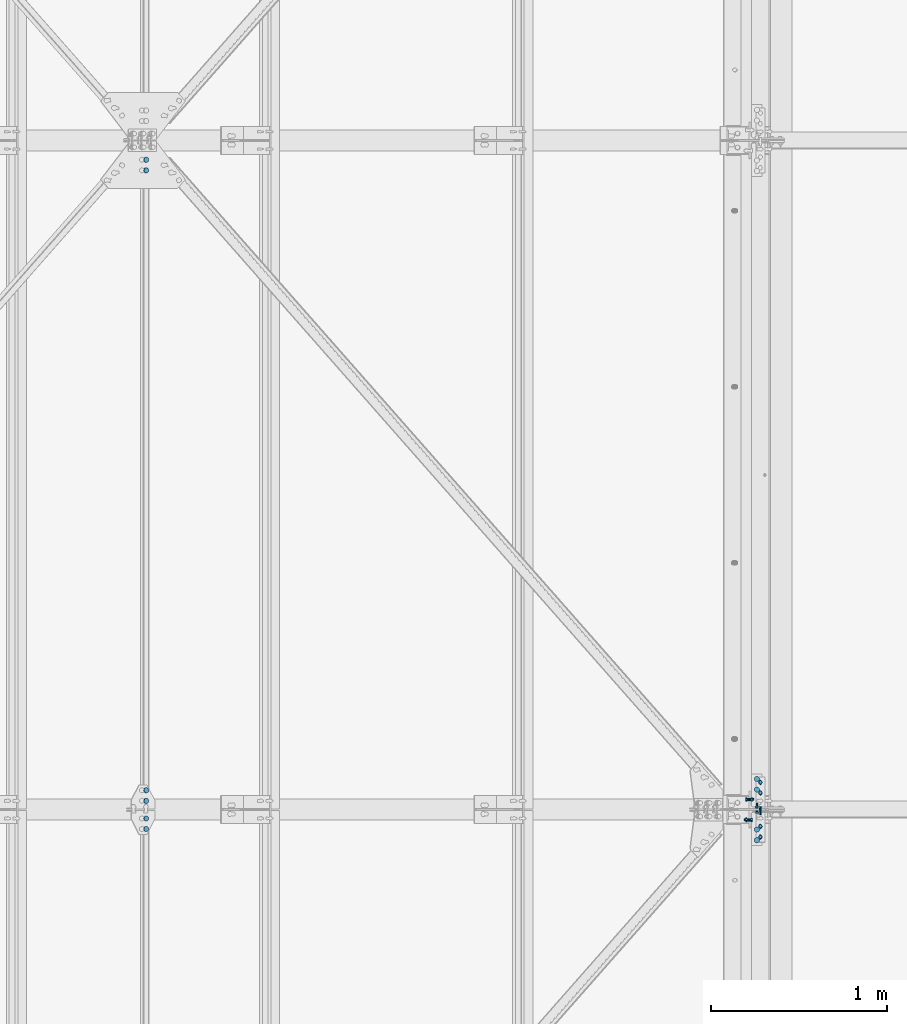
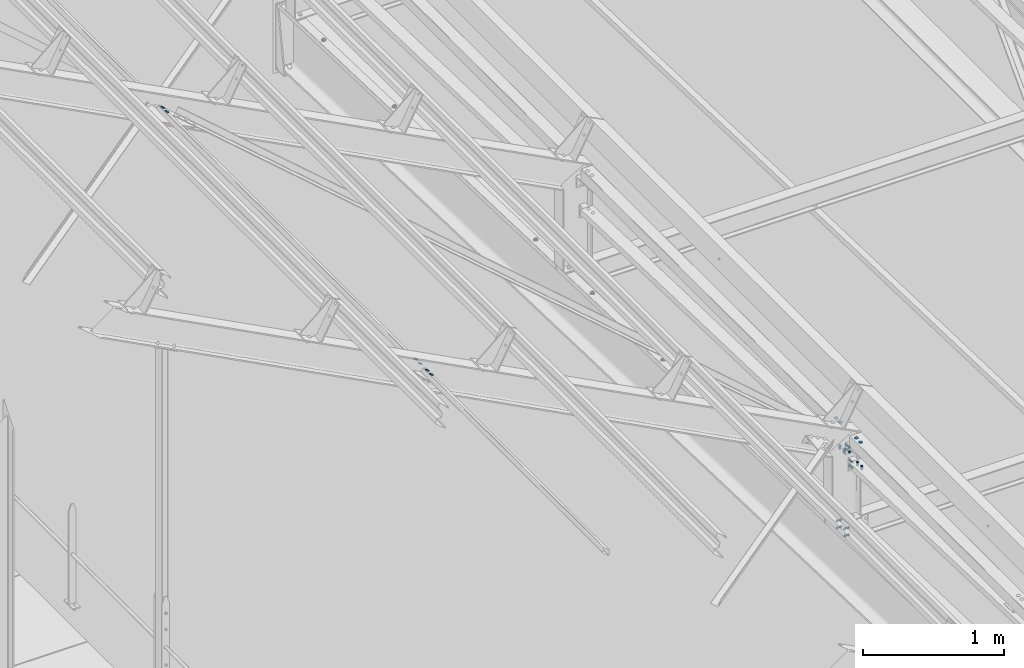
# One storey, part 278 of 362: 11 mechanical fasteners.
"""IFC2X3 building model written with IfcOpenShell, lengths in millimetres."""

from ifc_helpers import new_model, si_unit, frame, frame_2d, origin_with_axes, origin_2d_with_axis, place, context, subcontext, project, spatial, polyline, circle_curve, parameter, trimmed, segment, composite_curve, circle, outline, extrude, source, transform, mapped, material, type_object, element, save


model = new_model("IFC2X3")

# Units and contexts
model_context = context("Model", 3, precision=1e-05, world=origin_with_axes())
body_context = subcontext(model_context, "Body", "Model", "MODEL_VIEW")
ifc_project = project(units=[si_unit("LENGTHUNIT", "METRE", prefix="MILLI"), si_unit("AREAUNIT", "SQUARE_METRE"), si_unit("VOLUMEUNIT", "CUBIC_METRE"), si_unit("MASSUNIT", "GRAM", prefix="KILO"), si_unit("TIMEUNIT", "SECOND"), si_unit("PLANEANGLEUNIT", "RADIAN"), si_unit("SOLIDANGLEUNIT", "STERADIAN"), si_unit("THERMODYNAMICTEMPERATUREUNIT", "DEGREE_CELSIUS"), si_unit("LUMINOUSINTENSITYUNIT", "LUMEN")], contexts=[model_context])

# Site, building, storey
site_placement = place(None, origin_with_axes())
site = spatial("IfcSite", under=ifc_project, at=site_placement, Name="Undefined", CompositionType="ELEMENT")
building_placement = place(site_placement, origin_with_axes())
building = spatial("IfcBuilding", under=site, at=building_placement, Name="Undefined", CompositionType="ELEMENT")
storey_placement = place(building_placement, origin_with_axes())
storey = spatial("IfcBuildingStorey", under=building, at=storey_placement, Name="Undefined", CompositionType="ELEMENT", Elevation=0.0)

# Mechanical fasteners
ifc_material_1 = material(Name="6.8")
mechanical_fastener_type = type_object("IfcMechanicalFastenerType", Name="Bolt assembly")
shared_shape_1 = source(origin_with_axes(), body_context, "Body", "SweptSolid", [
    extrude(circle(Radius=15.0, at=origin_2d_with_axis()), frame((0.0, 0.0, 0.0), z_axis=(0.0, 1.0, 0.0), x_axis=(1.0, 0.0, 0.0)), (0.0, 0.0, 1.0), 4.1),
])
for number, where, z_axis, x_axis, name in (
    (1, (16133.5387435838, 11290.0011719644, 10309.713424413), (0.886082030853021, 2.26635428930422e-05, -0.463528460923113), (2.01259999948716e-05, -0.999999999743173, -1.04209999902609e-05), "Bolt assembly"),
    (2, (19599.9999999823, 7773.5, 8550.0), (1.0, 0.0, 0.0), (0.0, -1.0, 0.0), "Bolt assembly"),
    (3, (19599.9999999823, 7426.5, 8550.0), (-1.0, 0.0, 0.0), (0.0, 1.0, 0.0), "Bolt assembly"),
):
    element("IfcMechanicalFastener", number, at=place(storey_placement, frame(where, z_axis=z_axis, x_axis=x_axis)), inside=storey, type_object=mechanical_fastener_type, material=ifc_material_1, Name=name, NominalDiameter=30.0, NominalLength=4.0, context=body_context, shape_type="MappedRepresentation", body=[
        mapped(shared_shape_1, transform((0.0, 0.0, 0.0))),
        mapped(shared_shape_1, transform((60.0, 0.0, 0.0))),
    ])
ifc_material_2 = material(Name="8.8-SB-ZINGUE")
shared_shape_2 = source(origin_with_axes(), body_context, "Body", "SweptSolid", [
    extrude(circle(Radius=7.0, at=origin_2d_with_axis()), frame((0.0, -3.09999932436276, 0.0), z_axis=(0.0, 1.0, 0.0), x_axis=(1.0, 0.0, 0.0)), (0.0, 0.0, 1.0), 6.2),
    extrude(circle(Radius=7.0, at=origin_2d_with_axis()), frame((0.0, -9.40000000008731, 0.0), z_axis=(0.0, 1.0, 0.0), x_axis=(1.0, 0.0, 0.0)), (0.0, 0.0, 1.0), 6.0),
    extrude(circle(Radius=7.0, at=origin_2d_with_axis()), frame((0.0, 3.40000111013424, 0.0), z_axis=(0.0, 1.0, 0.0), x_axis=(1.0, 0.0, 0.0)), (0.0, 0.0, 1.0), 6.1),
    extrude(outline(polyline([(10.39230484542, 0.0), (5.19615242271, 9.00000000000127), (-5.19615242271, 9.00000000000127), (-10.39230484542, 0.0), (-5.19615242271, -9.00000000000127), (5.19615242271, -9.00000000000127), (10.39230484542, 0.0)])), frame((0.0, -17.4200000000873, 0.0), z_axis=(0.0, 1.0, 0.0), x_axis=(1.0, 0.0, 0.0)), (0.0, 0.0, 1.0), 7.92),
    extrude(circle(Radius=6.0, at=origin_2d_with_axis()), frame((0.0, -9.50000000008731, 0.0), z_axis=(0.0, 1.0, 0.0), x_axis=(1.0, 0.0, 0.0)), (0.0, 0.0, 1.0), 40.0),
    extrude(outline(polyline([(11.5008173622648, 0.0), (5.7504086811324, 9.96000000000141), (-5.7504086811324, 9.96000000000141), (-11.5008173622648, 0.0), (-5.7504086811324, -9.96000000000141), (5.7504086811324, -9.96000000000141), (11.5008173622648, 0.0)])), frame((0.0, 9.50000815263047, 0.0), z_axis=(0.0, 1.0, 0.0), x_axis=(1.0, 0.0, 0.0)), (0.0, 0.0, 1.0), 7.92),
])
mechanical_fastener_1_placement = place(storey_placement, frame((19620.0, 7600.0, 8227.43274813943), z_axis=(1.0, 0.0, 0.0), x_axis=(0.0, 0.0, 1.0)))
element("IfcMechanicalFastener", 4, at=mechanical_fastener_1_placement, inside=storey, type_object=mechanical_fastener_type, material=ifc_material_2, Name="Bolt assembly", NominalDiameter=12.0, NominalLength=40.0, context=body_context, shape_type="MappedRepresentation", body=[
    mapped(shared_shape_2, transform((0.0, 0.0, 0.0))),
    mapped(shared_shape_2, transform((49.9999999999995, 0.0, -3.63797880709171e-12))),
])
shared_shape_3 = source(origin_with_axes(), body_context, "Body", "SweptSolid", [
    extrude(circle(Radius=7.0, at=origin_2d_with_axis()), frame((0.0, -3.89999843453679, 0.0), z_axis=(0.0, 1.0, 0.0), x_axis=(1.0, 0.0, 0.0)), (0.0, 0.0, 1.0), 4.0),
    extrude(outline(composite_curve([segment(polyline([(-7.0, 7.0), (7.0, 7.0)]), True, "CONTINUOUS"), segment(trimmed(circle_curve(frame_2d((7.0, 0.0), x_axis=(0.0, 1.0)), 7.0), [parameter(0.0)], [parameter(3.14159265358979)], False, "PARAMETER"), True, "CONTINUOUS"), segment(polyline([(7.0, -7.0), (-7.0, -7.0)]), True, "CONTINUOUS"), segment(trimmed(circle_curve(frame_2d((-7.0, 0.0), x_axis=(0.0, -1.0)), 7.0), [parameter(0.0)], [parameter(3.14159265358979)], False, "PARAMETER"), True, "DISCONTINUOUS")], self_intersect=False)), frame((0.0, -0.100011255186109, 0.0), z_axis=(0.0, 1.0, 0.0), x_axis=(1.0, 0.0, 0.0)), (0.0, 0.0, 1.0), 6.1),
    extrude(outline(polyline([(10.39230484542, 0.0), (5.19615242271, 9.00000000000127), (-5.19615242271, 9.00000000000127), (-10.39230484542, 0.0), (-5.19615242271, -9.00000000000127), (5.19615242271, -9.00000000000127), (10.39230484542, 0.0)])), frame((0.0, -11.9199984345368, 0.0), z_axis=(0.0, 1.0, 0.0), x_axis=(1.0, 0.0, 0.0)), (0.0, 0.0, 1.0), 7.92),
    extrude(circle(Radius=6.0, at=origin_2d_with_axis()), frame((0.0, -3.99999923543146, 0.0), z_axis=(0.0, 1.0, 0.0), x_axis=(1.0, 0.0, 0.0)), (0.0, 0.0, 1.0), 30.0),
    extrude(circle(Radius=10.8, at=origin_2d_with_axis()), frame((0.0, 6.0, 0.0), z_axis=(0.0, 1.0, 0.0), x_axis=(1.0, 0.0, 0.0)), (0.0, 0.0, 1.0), 3.96),
    extrude(outline(polyline([(11.5008173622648, 0.0), (5.7504086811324, 9.96000000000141), (-5.7504086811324, 9.96000000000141), (-11.5008173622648, 0.0), (-5.7504086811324, -9.96000000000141), (5.7504086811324, -9.96000000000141), (11.5008173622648, 0.0)])), frame((0.0, 9.9600084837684, 0.0), z_axis=(0.0, 1.0, 0.0), x_axis=(1.0, 0.0, 0.0)), (0.0, 0.0, 1.0), 7.92),
])
mechanical_fastener_2_placement = place(storey_placement, frame((19619.9999999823, 7445.0444201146, 8317.30299256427), z_axis=(-1.0, 0.0, 0.0), x_axis=(0.0, 0.99950644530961, -0.0314144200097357)))
element("IfcMechanicalFastener", 5, at=mechanical_fastener_2_placement, inside=storey, type_object=mechanical_fastener_type, material=ifc_material_2, Name="Bolt assembly", NominalDiameter=12.0, NominalLength=30.0, context=body_context, shape_type="MappedRepresentation", body=[
    mapped(shared_shape_3, transform((0.0, 0.0, 0.0))),
    mapped(shared_shape_3, transform((60.0, 0.0, 0.0))),
])
shared_shape_4 = source(origin_with_axes(), body_context, "Body", "SweptSolid", [
    extrude(circle(Radius=7.0, at=origin_2d_with_axis()), frame((0.0, -3.89999843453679, 0.0), z_axis=(0.0, 1.0, 0.0), x_axis=(1.0, 0.0, 0.0)), (0.0, 0.0, 1.0), 4.0),
    extrude(outline(composite_curve([segment(polyline([(-7.0, 7.0), (7.0, 7.0)]), True, "CONTINUOUS"), segment(trimmed(circle_curve(frame_2d((7.0, 0.0), x_axis=(0.0, 1.0)), 7.0), [parameter(0.0)], [parameter(3.14159265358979)], False, "PARAMETER"), True, "CONTINUOUS"), segment(polyline([(7.0, -7.0), (-7.0, -7.0)]), True, "CONTINUOUS"), segment(trimmed(circle_curve(frame_2d((-7.0, 0.0), x_axis=(0.0, -1.0)), 7.0), [parameter(0.0)], [parameter(3.14159265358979)], False, "PARAMETER"), True, "DISCONTINUOUS")], self_intersect=False)), frame((0.0, -0.100011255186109, 0.0), z_axis=(0.0, 1.0, 0.0), x_axis=(1.0, 0.0, 0.0)), (0.0, 0.0, 1.0), 6.1),
    extrude(outline(polyline([(10.39230484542, 0.0), (5.19615242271, 9.00000000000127), (-5.19615242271, 9.00000000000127), (-10.39230484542, 0.0), (-5.19615242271, -9.00000000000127), (5.19615242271, -9.00000000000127), (10.39230484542, 0.0)])), frame((0.0, -11.9199984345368, 0.0), z_axis=(0.0, 1.0, 0.0), x_axis=(1.0, 0.0, 0.0)), (0.0, 0.0, 1.0), 7.92),
    extrude(circle(Radius=6.0, at=origin_2d_with_axis()), frame((0.0, -3.99999923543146, 0.0), z_axis=(0.0, 1.0, 0.0), x_axis=(1.0, 0.0, 0.0)), (0.0, 0.0, 1.0), 30.0),
    extrude(circle(Radius=10.8, at=origin_2d_with_axis()), frame((0.0, 6.0, 0.0), z_axis=(0.0, 1.0, 0.0), x_axis=(1.0, 0.0, 0.0)), (0.0, 0.0, 1.0), 3.96),
    extrude(outline(polyline([(11.5008173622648, 0.0), (5.7504086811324, 9.96000000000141), (-5.7504086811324, 9.96000000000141), (-11.5008173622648, 0.0), (-5.7504086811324, -9.96000000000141), (5.7504086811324, -9.96000000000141), (11.5008173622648, 0.0)])), frame((0.0, 9.9600084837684, 0.0), z_axis=(0.0, 1.0, 0.0), x_axis=(1.0, 0.0, 0.0)), (0.0, 0.0, 1.0), 7.92),
])
mechanical_fastener_3_placement = place(storey_placement, frame((19619.9999999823, 7754.95557192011, 8307.56250616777), z_axis=(1.0, 0.0, 0.0), x_axis=(0.0, -0.999506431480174, 0.0314148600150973)))
element("IfcMechanicalFastener", 6, at=mechanical_fastener_3_placement, inside=storey, type_object=mechanical_fastener_type, material=ifc_material_2, Name="Bolt assembly", NominalDiameter=12.0, NominalLength=30.0, context=body_context, shape_type="MappedRepresentation", body=[
    mapped(shared_shape_4, transform((0.0, 0.0, 0.0))),
    mapped(shared_shape_4, transform((60.0, 0.0, 0.0))),
])
shared_shape_5 = source(origin_with_axes(), body_context, "Body", "SweptSolid", [
    extrude(circle(Radius=15.0, at=origin_2d_with_axis()), frame((0.0, 6.26397177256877e-05, 0.0), z_axis=(0.0, 1.0, 0.0), x_axis=(1.0, 0.0, 0.0)), (0.0, 0.0, 1.0), 4.1),
])
for number, where, z_axis, x_axis, name in (
    (7, (16133.5411624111, 7650.00012193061, 10309.7122175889), (-0.886081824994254, 0.0, 0.463528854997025), (0.0, 1.0, 0.0), "Bolt assembly"),
    (8, (16133.5411639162, 7549.99998170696, 10309.7122175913), (0.886081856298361, 3.500000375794e-08, -0.463528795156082), (0.0, -1.0, 0.0), "Bolt assembly"),
):
    element("IfcMechanicalFastener", number, at=place(storey_placement, frame(where, z_axis=z_axis, x_axis=x_axis)), inside=storey, type_object=mechanical_fastener_type, material=ifc_material_1, Name=name, NominalDiameter=30.0, NominalLength=4.0, context=body_context, shape_type="MappedRepresentation", body=[
        mapped(shared_shape_5, transform((0.0, 0.0, 0.0))),
        mapped(shared_shape_5, transform((60.0, 0.0, 0.0))),
    ])
shared_shape_6 = source(origin_with_axes(), body_context, "Body", "SweptSolid", [
    extrude(circle(Radius=7.0, at=origin_2d_with_axis()), frame((0.0, -3.10006822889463, 0.0), z_axis=(0.0, 1.0, 0.0), x_axis=(1.0, 0.0, 0.0)), (0.0, 0.0, 1.0), 6.2),
    extrude(circle(Radius=7.0, at=origin_2d_with_axis()), frame((0.0, 3.3998951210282, 0.0), z_axis=(0.0, 1.0, 0.0), x_axis=(1.0, 0.0, 0.0)), (0.0, 0.0, 1.0), 10.1),
    extrude(circle(Radius=7.0, at=origin_2d_with_axis()), frame((0.0, -13.4001048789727, 0.0), z_axis=(0.0, 1.0, 0.0), x_axis=(1.0, 0.0, 0.0)), (0.0, 0.0, 1.0), 10.0),
    extrude(outline(polyline([(10.39230484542, 0.0), (5.19615242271, 9.00000000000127), (-5.19615242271, 9.00000000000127), (-10.39230484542, 0.0), (-5.19615242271, -9.00000000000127), (5.19615242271, -9.00000000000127), (10.39230484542, 0.0)])), frame((0.0, -21.4201048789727, 0.0), z_axis=(0.0, 1.0, 0.0), x_axis=(1.0, 0.0, 0.0)), (0.0, 0.0, 1.0), 7.92),
    extrude(circle(Radius=6.0, at=origin_2d_with_axis()), frame((0.0, -13.5000574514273, 0.0), z_axis=(0.0, 1.0, 0.0), x_axis=(1.0, 0.0, 0.0)), (0.0, 0.0, 1.0), 50.0),
    extrude(outline(polyline([(11.5008173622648, 0.0), (5.7504086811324, 9.96000000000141), (-5.7504086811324, 9.96000000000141), (-11.5008173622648, 0.0), (-5.7504086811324, -9.96000000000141), (5.7504086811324, -9.96000000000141), (11.5008173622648, 0.0)])), frame((0.0, 13.4998951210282, 0.0), z_axis=(0.0, 1.0, 0.0), x_axis=(1.0, 0.0, 0.0)), (0.0, 0.0, 1.0), 7.92),
])
mechanical_fastener_4_placement = place(storey_placement, frame((19599.9999999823, 7600.00010487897, 8370.0), z_axis=(-1.0, 0.0, 0.0), x_axis=(0.0, 0.0, 1.0)))
element("IfcMechanicalFastener", 9, at=mechanical_fastener_4_placement, inside=storey, type_object=mechanical_fastener_type, material=ifc_material_2, Name="Bolt assembly", NominalDiameter=12.0, NominalLength=50.0, context=body_context, shape_type="MappedRepresentation", body=[
    mapped(shared_shape_6, transform((0.0, 0.0, 0.0))),
    mapped(shared_shape_6, transform((40.0, 0.0, 0.0))),
])
shared_shape_7 = source(origin_with_axes(), body_context, "Body", "SweptSolid", [
    extrude(circle(Radius=7.0, at=origin_2d_with_axis()), frame((0.0, -5.45000018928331, 0.0), z_axis=(0.0, 1.0, 0.0), x_axis=(1.0, 0.0, 0.0)), (0.0, 0.0, 1.0), 11.1),
    extrude(circle(Radius=7.0, at=origin_2d_with_axis()), frame((0.0, 5.90002706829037, 0.0), z_axis=(0.0, 1.0, 0.0), x_axis=(1.0, 0.0, 0.0)), (0.0, 0.0, 1.0), 10.1),
    extrude(outline(polyline([(10.39230484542, 0.0), (5.19615242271, 9.00000000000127), (-5.19615242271, 9.00000000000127), (-10.39230484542, 0.0), (-5.19615242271, -9.00000000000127), (5.19615242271, -9.00000000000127), (10.39230484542, 0.0)])), frame((0.0, -13.4700001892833, 0.0), z_axis=(0.0, 1.0, 0.0), x_axis=(1.0, 0.0, 0.0)), (0.0, 0.0, 1.0), 7.92),
    extrude(circle(Radius=6.0, at=origin_2d_with_axis()), frame((0.0, -5.55000018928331, 0.0), z_axis=(0.0, 1.0, 0.0), x_axis=(1.0, 0.0, 0.0)), (0.0, 0.0, 1.0), 40.0),
    extrude(outline(polyline([(11.5008173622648, 0.0), (5.7504086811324, 9.96000000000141), (-5.7504086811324, 9.96000000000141), (-11.5008173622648, 0.0), (-5.7504086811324, -9.96000000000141), (5.7504086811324, -9.96000000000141), (11.5008173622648, 0.0)])), frame((0.0, 15.9999999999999, 0.0), z_axis=(0.0, 1.0, 0.0), x_axis=(1.0, 0.0, 0.0)), (0.0, 0.0, 1.0), 7.92),
])
mechanical_fastener_5_placement = place(storey_placement, frame((19550.0, 7657.97780438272, 7719.29405770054), z_axis=(7.58071938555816e-11, 0.0314107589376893, 0.999506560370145), x_axis=(0.0, -0.999506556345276, 0.031410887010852)))
element("IfcMechanicalFastener", 10, at=mechanical_fastener_5_placement, inside=storey, type_object=mechanical_fastener_type, material=ifc_material_2, Name="Bolt assembly", NominalDiameter=12.0, NominalLength=40.0, context=body_context, shape_type="MappedRepresentation", body=[
    mapped(shared_shape_7, transform((0.0, 0.0, -30.0))),
    mapped(shared_shape_7, transform((0.0, 0.0, 30.0))),
])
shared_shape_8 = source(origin_with_axes(), body_context, "Body", "SweptSolid", [
    extrude(circle(Radius=7.0, at=origin_2d_with_axis()), frame((0.0, -5.65000019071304, 0.0), z_axis=(0.0, 1.0, 0.0), x_axis=(1.0, 0.0, 0.0)), (0.0, 0.0, 1.0), 11.2),
    extrude(circle(Radius=7.0, at=origin_2d_with_axis()), frame((0.0, -15.9000004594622, 0.0), z_axis=(0.0, 1.0, 0.0), x_axis=(1.0, 0.0, 0.0)), (0.0, 0.0, 1.0), 10.0),
    extrude(outline(polyline([(10.39230484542, 0.0), (5.19615242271, 9.00000000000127), (-5.19615242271, 9.00000000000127), (-10.39230484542, 0.0), (-5.19615242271, -9.00000000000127), (5.19615242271, -9.00000000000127), (10.39230484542, 0.0)])), frame((0.0, -23.9200004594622, 0.0), z_axis=(0.0, 1.0, 0.0), x_axis=(1.0, 0.0, 0.0)), (0.0, 0.0, 1.0), 7.92),
    extrude(circle(Radius=6.0, at=origin_2d_with_axis()), frame((0.0, -16.0000004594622, 0.0), z_axis=(0.0, 1.0, 0.0), x_axis=(1.0, 0.0, 0.0)), (0.0, 0.0, 1.0), 40.0),
    extrude(outline(polyline([(11.5008173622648, 0.0), (5.7504086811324, 9.96000000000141), (-5.7504086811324, 9.96000000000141), (-11.5008173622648, 0.0), (-5.7504086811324, -9.96000000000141), (5.7504086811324, -9.96000000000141), (11.5008173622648, 0.0)])), frame((0.0, 5.55000018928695, 0.0), z_axis=(0.0, 1.0, 0.0), x_axis=(1.0, 0.0, 0.0)), (0.0, 0.0, 1.0), 7.92),
])
mechanical_fastener_6_placement = place(storey_placement, frame((19550.0, 7542.03418319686, 7722.93778607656), z_axis=(7.58071938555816e-11, 0.0314107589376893, 0.999506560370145), x_axis=(3.14103090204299e-11, 0.999506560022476, -0.0314107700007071)))
element("IfcMechanicalFastener", 11, at=mechanical_fastener_6_placement, inside=storey, type_object=mechanical_fastener_type, material=ifc_material_2, Name="Bolt assembly", NominalDiameter=12.0, NominalLength=40.0, context=body_context, shape_type="MappedRepresentation", body=[
    mapped(shared_shape_8, transform((0.0, 0.0, -30.0))),
    mapped(shared_shape_8, transform((0.0, 0.0, 30.0))),
])

save(model, "model.ifc")
